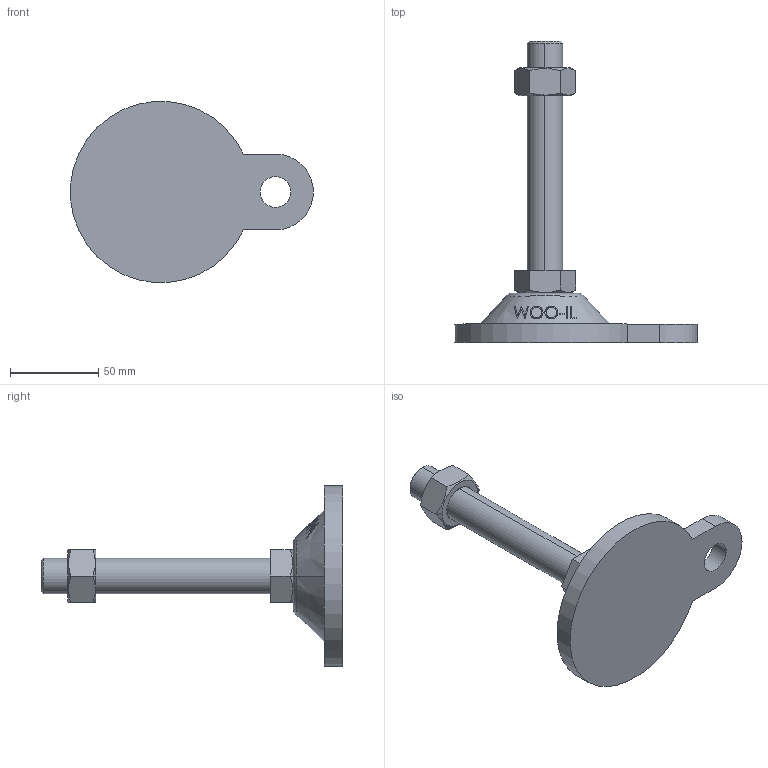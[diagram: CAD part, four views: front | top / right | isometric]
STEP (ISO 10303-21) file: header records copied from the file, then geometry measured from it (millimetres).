
FILE_DESCRIPTION (( 'STEP AP214' ), '1' );
FILE_NAME ('ARB103-M20-130.step', '2021-03-25T00:41:16', ( '' ), ( '' ), 'SwSTEP 2.0', 'SolidWorks 2019', '' );
FILE_SCHEMA (( 'AUTOMOTIVE_DESIGN' ));
Length unit declared in the file: millimetre
Products named in the file (2): ARB103-M20-130
Bounding box: 137.8 x 171 x 102.64 mm (x, y, z)
Volume: 204565.7 mm3; surface area: 39318.8 mm2
Topology: 3 solids, 3 shells, 97 faces, 229 edges, 148 vertices
Faces by surface type: plane 49, cone 22, bspline 16, cylinder 8, torus 2
Entity records: 4424 total; most frequent: CARTESIAN_POINT 2262, ORIENTED_EDGE 458, DIRECTION 375, EDGE_CURVE 229, VERTEX_POINT 148, AXIS2_PLACEMENT_3D 143, EDGE_LOOP 111, FACE_OUTER_BOUND 97
